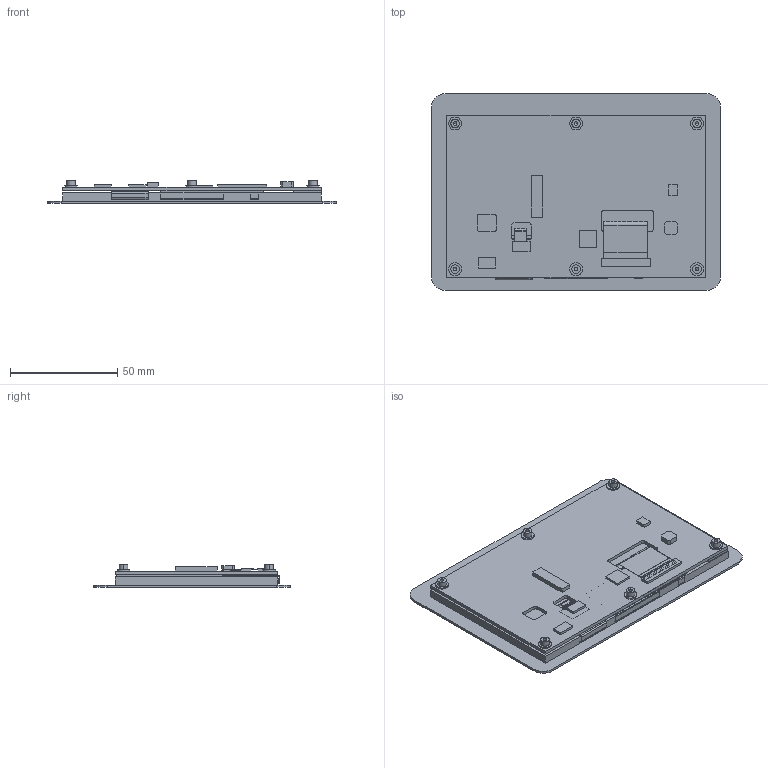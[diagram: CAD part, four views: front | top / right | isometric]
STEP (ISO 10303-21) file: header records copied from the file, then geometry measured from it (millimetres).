
FILE_DESCRIPTION (( 'STEP AP214' ), '1' );
FILE_NAME ('CFAF800480E2-050SC-A2.STEP', '2021-07-15T23:00:24', ( '' ), ( '' ), 'SwSTEP 2.0', 'SolidWorks 2021', '' );
FILE_SCHEMA (( 'AUTOMOTIVE_DESIGN' ));
Length unit declared in the file: millimetre
Products named in the file (4): cfa_10100_PCB; CFAF800480E2-050SC-A2; clear_1mm_tape; CFAF800480E2-050SC drawing
Assembly tree (3 placements, depth 2):
  CFAF800480E2-050SC-A2
    cfa_10100_PCB
    CFAF800480E2-050SC drawing
    clear_1mm_tape
Bounding box: 135 x 91.8 x 10.72 mm (x, y, z)
Volume: 50825 mm3; surface area: 70943.7 mm2
Topology: 4 solids, 6 shells, 418 faces, 1148 edges, 758 vertices
Faces by surface type: plane 335, cylinder 60, cone 12, bspline 11
Entity records: 19730 total; most frequent: CARTESIAN_POINT 5941, ORIENTED_EDGE 2272, DIRECTION 1348, EDGE_CURVE 1136, VERTEX_POINT 758, B_SPLINE_CURVE_WITH_KNOTS 736, AXIS2_PLACEMENT_3D 534, EDGE_LOOP 452
